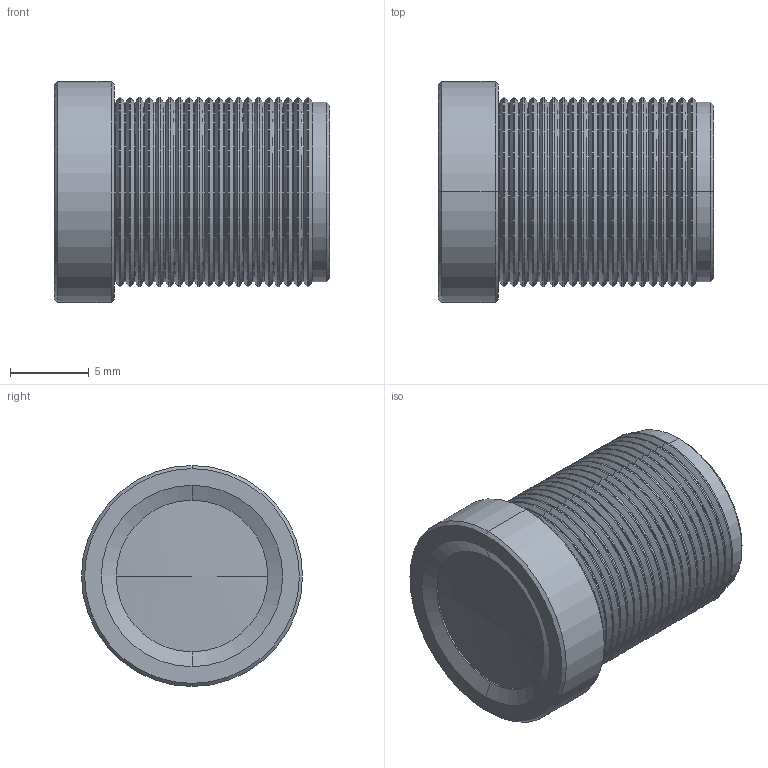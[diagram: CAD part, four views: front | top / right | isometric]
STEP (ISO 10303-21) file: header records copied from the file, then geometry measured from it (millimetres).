
FILE_DESCRIPTION (( 'STEP AP214' ), '1' );
FILE_NAME ('AB0418MG.STEP', '2025-08-20T09:04:28', ( '' ), ( '' ), 'SwSTEP 2.0', 'SolidWorks 2023', '' );
FILE_SCHEMA (( 'AUTOMOTIVE_DESIGN' ));
Length unit declared in the file: millimetre
Products named in the file (1): AB0418MG
Bounding box: 17.44 x 14 x 14 mm (x, y, z)
Volume: 1879.2 mm3; surface area: 1267.5 mm2
Topology: 1 solids, 1 shells, 194 faces, 394 edges, 204 vertices
Faces by surface type: cylinder 94, cone 90, plane 6, sphere 4
Entity records: 4919 total; most frequent: DIRECTION 982, CARTESIAN_POINT 785, ORIENTED_EDGE 776, AXIS2_PLACEMENT_3D 399, EDGE_CURVE 388, CIRCLE 204, VERTEX_POINT 202, EDGE_LOOP 200
